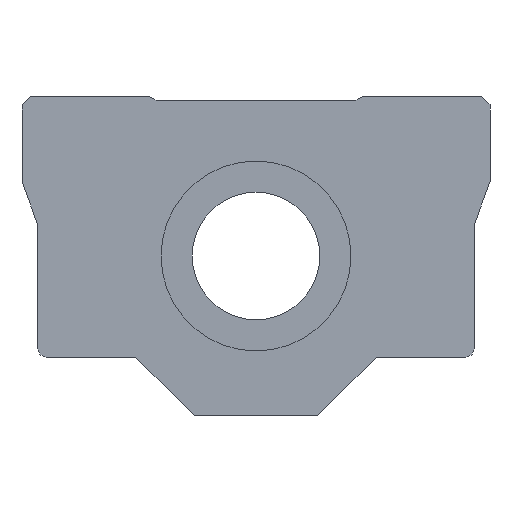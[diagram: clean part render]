
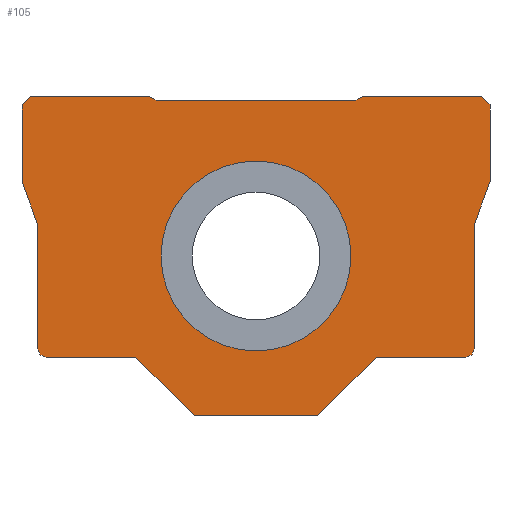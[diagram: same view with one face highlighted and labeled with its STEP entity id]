
A CAD part, left-side view. The second image highlights one B-rep face of the part: STEP entity #105.
In plain terms, the highlighted planar face has unit normal (-1, 0, 0).
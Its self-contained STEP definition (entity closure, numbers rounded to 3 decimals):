
#105 = ADVANCED_FACE( '', ( #237, #238 ), #239, .F. );
#237 = FACE_BOUND( '', #388, .T. );
#238 = FACE_OUTER_BOUND( '', #389, .T. );
#239 = PLANE( '', #390 );
#388 = EDGE_LOOP( '', ( #602 ) );
#389 = EDGE_LOOP( '', ( #603, #604, #605, #606, #607, #608, #609, #610, #611, #612, #613, #614, #615, #616, #617, #618, #619, #620, #621, #622 ) );
#390 = AXIS2_PLACEMENT_3D( '', #623, #624, #625 );
#602 = ORIENTED_EDGE( '', *, *, #840, .T. );
#603 = ORIENTED_EDGE( '', *, *, #849, .F. );
#604 = ORIENTED_EDGE( '', *, *, #850, .F. );
#605 = ORIENTED_EDGE( '', *, *, #837, .F. );
#606 = ORIENTED_EDGE( '', *, *, #851, .F. );
#607 = ORIENTED_EDGE( '', *, *, #852, .F. );
#608 = ORIENTED_EDGE( '', *, *, #801, .F. );
#609 = ORIENTED_EDGE( '', *, *, #853, .F. );
#610 = ORIENTED_EDGE( '', *, *, #854, .F. );
#611 = ORIENTED_EDGE( '', *, *, #811, .F. );
#612 = ORIENTED_EDGE( '', *, *, #855, .F. );
#613 = ORIENTED_EDGE( '', *, *, #805, .F. );
#614 = ORIENTED_EDGE( '', *, *, #856, .T. );
#615 = ORIENTED_EDGE( '', *, *, #857, .T. );
#616 = ORIENTED_EDGE( '', *, *, #846, .T. );
#617 = ORIENTED_EDGE( '', *, *, #828, .F. );
#618 = ORIENTED_EDGE( '', *, *, #818, .F. );
#619 = ORIENTED_EDGE( '', *, *, #832, .F. );
#620 = ORIENTED_EDGE( '', *, *, #858, .F. );
#621 = ORIENTED_EDGE( '', *, *, #784, .F. );
#622 = ORIENTED_EDGE( '', *, *, #859, .F. );
#623 = CARTESIAN_POINT( '', ( 0., 0., 0. ) );
#624 = DIRECTION( '', ( 1., 0., 0. ) );
#625 = DIRECTION( '', ( 0., 1., 0. ) );
#784 = EDGE_CURVE( '', #911, #913, #914, .T. );
#801 = EDGE_CURVE( '', #939, #941, #942, .T. );
#805 = EDGE_CURVE( '', #946, #948, #949, .T. );
#811 = EDGE_CURVE( '', #957, #959, #960, .T. );
#818 = EDGE_CURVE( '', #969, #971, #972, .T. );
#828 = EDGE_CURVE( '', #971, #984, #988, .T. );
#832 = EDGE_CURVE( '', #992, #969, #994, .T. );
#837 = EDGE_CURVE( '', #1001, #996, #1003, .T. );
#840 = EDGE_CURVE( '', #1007, #1007, #1008, .T. );
#846 = EDGE_CURVE( '', #1017, #984, #1018, .T. );
#849 = EDGE_CURVE( '', #1021, #1022, #1023, .T. );
#850 = EDGE_CURVE( '', #996, #1021, #1024, .T. );
#851 = EDGE_CURVE( '', #1025, #1001, #1026, .T. );
#852 = EDGE_CURVE( '', #941, #1025, #1027, .T. );
#853 = EDGE_CURVE( '', #1028, #939, #1029, .T. );
#854 = EDGE_CURVE( '', #959, #1028, #1030, .T. );
#855 = EDGE_CURVE( '', #948, #957, #1031, .T. );
#856 = EDGE_CURVE( '', #946, #1032, #1033, .T. );
#857 = EDGE_CURVE( '', #1032, #1017, #1034, .T. );
#858 = EDGE_CURVE( '', #913, #992, #1035, .T. );
#859 = EDGE_CURVE( '', #1022, #911, #1036, .T. );
#911 = VERTEX_POINT( '', #1095 );
#913 = VERTEX_POINT( '', #1098 );
#914 = LINE( '', #1099, #1100 );
#939 = VERTEX_POINT( '', #1126 );
#941 = VERTEX_POINT( '', #1129 );
#942 = CIRCLE( '', #1130, 0.8 );
#946 = VERTEX_POINT( '', #1135 );
#948 = VERTEX_POINT( '', #1138 );
#949 = LINE( '', #1139, #1140 );
#957 = VERTEX_POINT( '', #1151 );
#959 = VERTEX_POINT( '', #1154 );
#960 = LINE( '', #1155, #1156 );
#969 = VERTEX_POINT( '', #1167 );
#971 = VERTEX_POINT( '', #1170 );
#972 = LINE( '', #1171, #1172 );
#984 = VERTEX_POINT( '', #1185 );
#988 = LINE( '', #1191, #1192 );
#992 = VERTEX_POINT( '', #1197 );
#994 = LINE( '', #1200, #1201 );
#996 = VERTEX_POINT( '', #1203 );
#1001 = VERTEX_POINT( '', #1210 );
#1003 = LINE( '', #1213, #1214 );
#1007 = VERTEX_POINT( '', #1218 );
#1008 = CIRCLE( '', #1219, 8.925 );
#1017 = VERTEX_POINT( '', #1229 );
#1018 = LINE( '', #1230, #1231 );
#1021 = VERTEX_POINT( '', #1235 );
#1022 = VERTEX_POINT( '', #1236 );
#1023 = LINE( '', #1237, #1238 );
#1024 = LINE( '', #1239, #1240 );
#1025 = VERTEX_POINT( '', #1241 );
#1026 = LINE( '', #1242, #1243 );
#1027 = LINE( '', #1244, #1245 );
#1028 = VERTEX_POINT( '', #1246 );
#1029 = LINE( '', #1247, #1248 );
#1030 = LINE( '', #1249, #1250 );
#1031 = LINE( '', #1251, #1252 );
#1032 = VERTEX_POINT( '', #1253 );
#1033 = LINE( '', #1254, #1255 );
#1034 = LINE( '', #1256, #1257 );
#1035 = LINE( '', #1258, #1259 );
#1036 = CIRCLE( '', #1260, 0.8 );
#1095 = CARTESIAN_POINT( '', ( 0., 20.5, -8.7 ) );
#1098 = CARTESIAN_POINT( '', ( 0., 20.5, 2.879 ) );
#1099 = CARTESIAN_POINT( '', ( 0., 20.5, -9.2 ) );
#1100 = VECTOR( '', #1333, 1000. );
#1126 = CARTESIAN_POINT( '', ( 0., -20.5, -8.7 ) );
#1129 = CARTESIAN_POINT( '', ( 0., -19.7, -9.5 ) );
#1130 = AXIS2_PLACEMENT_3D( '', #1360, #1361, #1362 );
#1135 = CARTESIAN_POINT( '', ( 0., -10., 15. ) );
#1138 = CARTESIAN_POINT( '', ( 0., -21.2, 15. ) );
#1139 = CARTESIAN_POINT( '', ( 0., 19.2, 15. ) );
#1140 = VECTOR( '', #1365, 1000. );
#1151 = CARTESIAN_POINT( '', ( 0., -22., 14.2 ) );
#1154 = CARTESIAN_POINT( '', ( 0., -22., 7. ) );
#1155 = CARTESIAN_POINT( '', ( 0., -22., 14.2 ) );
#1156 = VECTOR( '', #1370, 1000. );
#1167 = CARTESIAN_POINT( '', ( 0., 22., 14.2 ) );
#1170 = CARTESIAN_POINT( '', ( 0., 21.2, 15. ) );
#1171 = CARTESIAN_POINT( '', ( 0., 22., 14.2 ) );
#1172 = VECTOR( '', #1377, 1000. );
#1185 = CARTESIAN_POINT( '', ( 0., 10., 15. ) );
#1191 = CARTESIAN_POINT( '', ( 0., 21.2, 15. ) );
#1192 = VECTOR( '', #1393, 1000. );
#1197 = CARTESIAN_POINT( '', ( 0., 22., 7. ) );
#1200 = CARTESIAN_POINT( '', ( 0., 22., 7. ) );
#1201 = VECTOR( '', #1396, 1000. );
#1203 = CARTESIAN_POINT( '', ( 0., 5.798, -15. ) );
#1210 = CARTESIAN_POINT( '', ( 0., -5.798, -15. ) );
#1213 = CARTESIAN_POINT( '', ( 0., -5.798, -15. ) );
#1214 = VECTOR( '', #1400, 1000. );
#1218 = CARTESIAN_POINT( '', ( 0., 8.925, 0. ) );
#1219 = AXIS2_PLACEMENT_3D( '', #1404, #1405, #1406 );
#1229 = CARTESIAN_POINT( '', ( 0., 9.3, 14.6 ) );
#1230 = CARTESIAN_POINT( '', ( 0., 3.377, 11.215 ) );
#1231 = VECTOR( '', #1414, 1000. );
#1235 = CARTESIAN_POINT( '', ( 0., 11.298, -9.5 ) );
#1236 = CARTESIAN_POINT( '', ( 0., 19.7, -9.5 ) );
#1237 = CARTESIAN_POINT( '', ( 0., 10.798, -9.5 ) );
#1238 = VECTOR( '', #1416, 1000. );
#1239 = CARTESIAN_POINT( '', ( 0., 6.798, -14. ) );
#1240 = VECTOR( '', #1417, 1000. );
#1241 = CARTESIAN_POINT( '', ( 0., -11.298, -9.5 ) );
#1242 = CARTESIAN_POINT( '', ( 0., -10.798, -10. ) );
#1243 = VECTOR( '', #1418, 1000. );
#1244 = CARTESIAN_POINT( '', ( 0., -19.7, -9.5 ) );
#1245 = VECTOR( '', #1419, 1000. );
#1246 = CARTESIAN_POINT( '', ( 0., -20.5, 2.879 ) );
#1247 = CARTESIAN_POINT( '', ( 0., -20.5, 2.879 ) );
#1248 = VECTOR( '', #1420, 1000. );
#1249 = CARTESIAN_POINT( '', ( 0., -22., 7. ) );
#1250 = VECTOR( '', #1421, 1000. );
#1251 = CARTESIAN_POINT( '', ( 0., -21.2, 15. ) );
#1252 = VECTOR( '', #1422, 1000. );
#1253 = CARTESIAN_POINT( '', ( 0., -9.3, 14.6 ) );
#1254 = CARTESIAN_POINT( '', ( 0., -3.027, 11.015 ) );
#1255 = VECTOR( '', #1423, 1000. );
#1256 = CARTESIAN_POINT( '', ( 0., 4.15, 14.6 ) );
#1257 = VECTOR( '', #1424, 1000. );
#1258 = CARTESIAN_POINT( '', ( 0., 20.5, 2.879 ) );
#1259 = VECTOR( '', #1425, 1000. );
#1260 = AXIS2_PLACEMENT_3D( '', #1426, #1427, #1428 );
#1333 = DIRECTION( '', ( 0., 0., 1. ) );
#1360 = CARTESIAN_POINT( '', ( 0., -19.7, -8.7 ) );
#1361 = DIRECTION( '', ( 1., 0., 0. ) );
#1362 = DIRECTION( '', ( 0., -1., 0. ) );
#1365 = DIRECTION( '', ( 0., -1., 0. ) );
#1370 = DIRECTION( '', ( 0., 0., -1. ) );
#1377 = DIRECTION( '', ( 0., -0.707, 0.707 ) );
#1393 = DIRECTION( '', ( 0., -1., 0. ) );
#1396 = DIRECTION( '', ( 0., 0., 1. ) );
#1400 = DIRECTION( '', ( 0., 1., 0. ) );
#1404 = CARTESIAN_POINT( '', ( 0., 0., 0. ) );
#1405 = DIRECTION( '', ( 1., 0., 0. ) );
#1406 = DIRECTION( '', ( 0., 1., 0. ) );
#1414 = DIRECTION( '', ( 0., 0.868, 0.496 ) );
#1416 = DIRECTION( '', ( 0., 1., 0. ) );
#1417 = DIRECTION( '', ( 0., 0.707, 0.707 ) );
#1418 = DIRECTION( '', ( 0., 0.707, -0.707 ) );
#1419 = DIRECTION( '', ( 0., 1., 0. ) );
#1420 = DIRECTION( '', ( 0., 0., -1. ) );
#1421 = DIRECTION( '', ( 0., 0.342, -0.94 ) );
#1422 = DIRECTION( '', ( 0., -0.707, -0.707 ) );
#1423 = DIRECTION( '', ( 0., 0.868, -0.496 ) );
#1424 = DIRECTION( '', ( 0., 1., 0. ) );
#1425 = DIRECTION( '', ( 0., 0.342, 0.94 ) );
#1426 = CARTESIAN_POINT( '', ( 0., 19.7, -8.7 ) );
#1427 = DIRECTION( '', ( 1., 0., 0. ) );
#1428 = DIRECTION( '', ( 0., 0., -1. ) );
